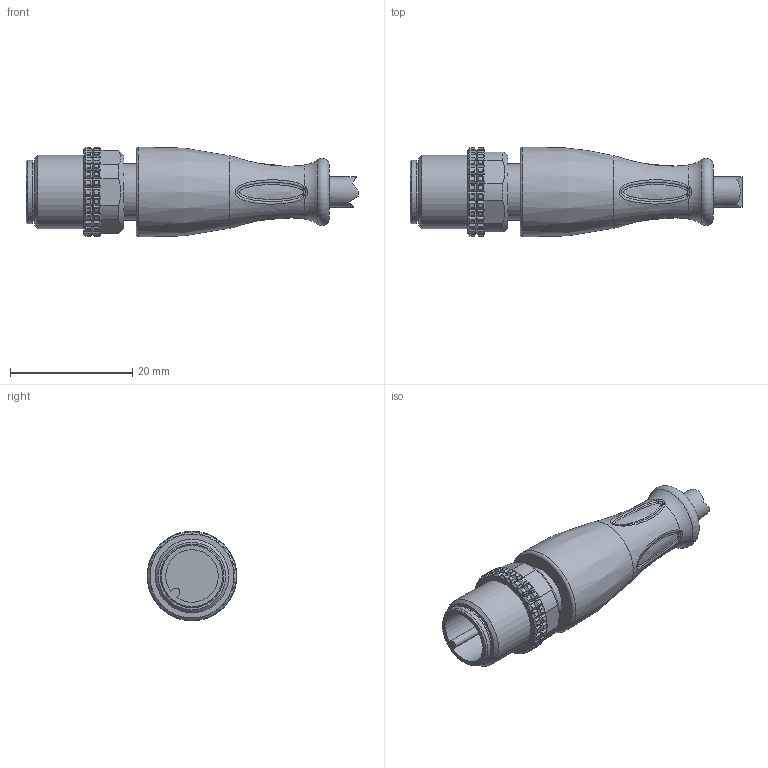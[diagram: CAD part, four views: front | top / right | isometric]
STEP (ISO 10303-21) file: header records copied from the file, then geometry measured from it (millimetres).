
FILE_DESCRIPTION((''),'2;1');
FILE_NAME('C:\Users\enrico\Desktop\Ale\Sito\AUTOMAZIONE_2020\FOTO & STEP Connettori circolari per sensori e attuatori\Singola testa\Step\M12 Ma ass.stp','2020-06-29T09:55:01',('Tecnico2'),(''),'Autodesk Inventor 2012','Autodesk Inventor 2012','');
FILE_SCHEMA(('AUTOMOTIVE_DESIGN { 1 0 10303 214 1 1 1 1 }'));
Length unit declared in the file: millimetre
Products named in the file (3): C12M3A2.ipt; C12M3A2; ghiera M12_MA_NON TECNICO
Assembly tree (2 placements, depth 2):
  C12M3A2.ipt
    C12M3A2
    ghiera M12_MA_NON TECNICO
Bounding box: 54.29 x 14.68 x 14.68 mm (x, y, z)
Volume: 4603 mm3; surface area: 3782.9 mm2
Topology: 2 solids, 2 shells, 1201 faces, 2755 edges, 1563 vertices
Faces by surface type: cylinder 517, plane 399, sphere 240, bspline 33, torus 8, cone 4
Full cylindrical faces by diameter (mm): 5 x1, 9.2 x1, 10 x1, 10.4 x1, 12 x1
Entity records: 35282 total; most frequent: CARTESIAN_POINT 7687, DIRECTION 6318, ORIENTED_EDGE 5472, EDGE_CURVE 2736, AXIS2_PLACEMENT_3D 2463, VERTEX_POINT 1558, VECTOR 1392, LINE 1392
